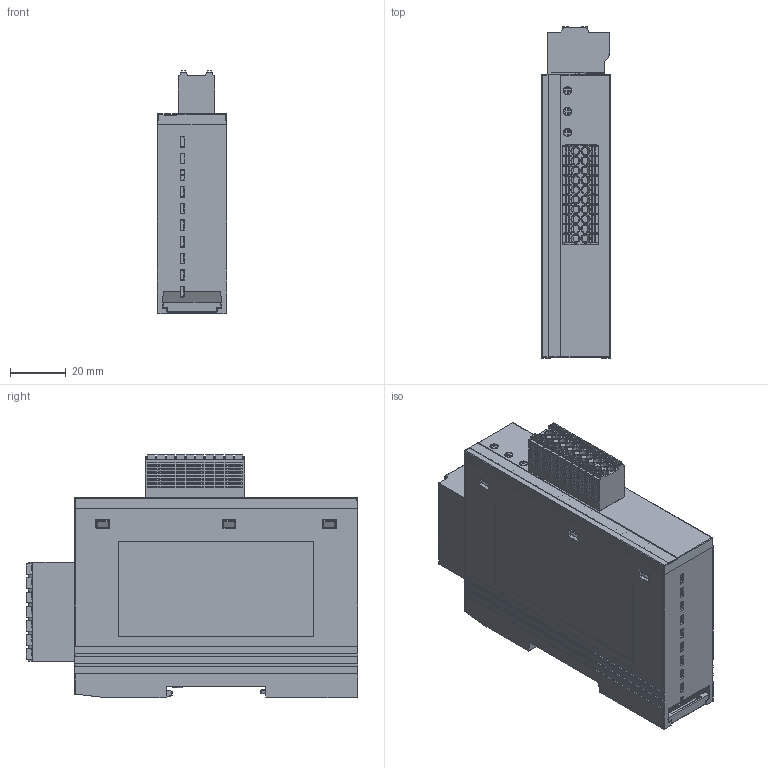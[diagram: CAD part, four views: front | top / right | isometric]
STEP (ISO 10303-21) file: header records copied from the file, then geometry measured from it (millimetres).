
FILE_DESCRIPTION((''),'2;1');
FILE_NAME('PRO_XX4_3_SW0001','2022-08-10T10:35:18',('董'),(''),'CREO PARAMETRIC BY PTC INC, 2020033','CREO PARAMETRIC BY PTC INC, 2020033','');
FILE_SCHEMA(('CONFIG_CONTROL_DESIGN'));
Products named in the file (1): PRO_XX4_3_SW0001
Bounding box: 25 x 119.4 x 87.5 mm (x, y, z)
Volume: 61036 mm3; surface area: 59752.5 mm2
Topology: 1 solids, 1 shells, 5809 faces, 15415 edges, 9648 vertices
Faces by surface type: plane 3507, cylinder 1558, bspline 292, cone 165, sphere 148, torus 139
Entity records: 190577 total; most frequent: CARTESIAN_POINT 49516, ORIENTED_EDGE 30558, DIRECTION 27367, EDGE_CURVE 15279, VECTOR 11181, LINE 11181, VERTEX_POINT 9648, AXIS2_PLACEMENT_3D 8093
